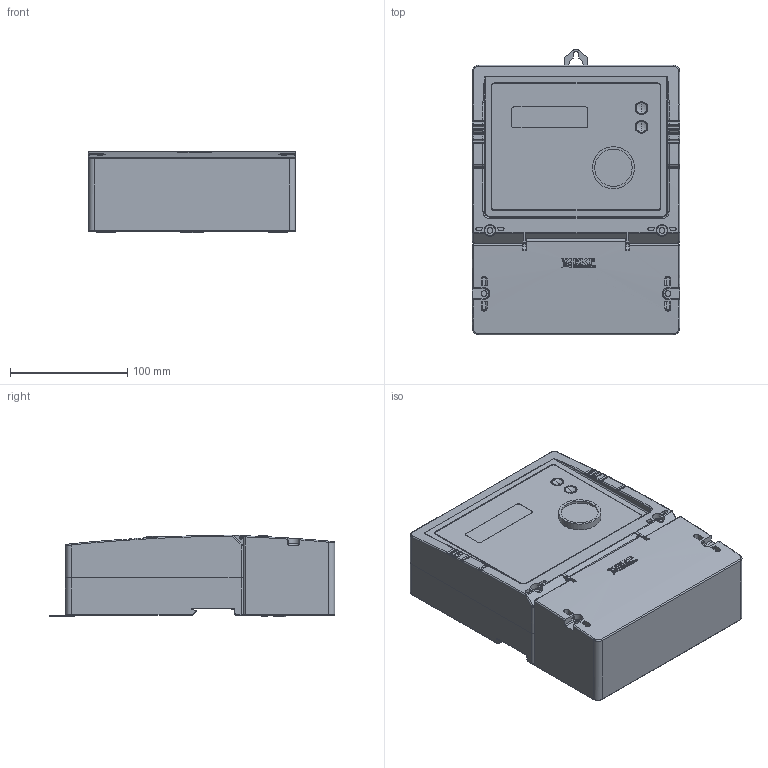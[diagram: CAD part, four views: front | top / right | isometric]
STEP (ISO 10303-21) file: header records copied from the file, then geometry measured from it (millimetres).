
FILE_DESCRIPTION (( 'STEP AP203' ), '1' );
FILE_NAME ('欭殣玁獥306.STEP', '2018-09-04T07:32:56', ( '' ), ( '' ), 'SwSTEP 2.0', 'SolidWorks 2017', '' );
FILE_SCHEMA (( 'CONFIG_CONTROL_DESIGN' ));
Length unit declared in the file: millimetre
Products named in the file (10): Êðûøêà îñíîâíàÿ_306; 扱闀罻_1; 扱闀罻; Êîëîäêà êëåììíàÿ_306; çàùåëêà; Âñòàâêà êðûøêè_306; Êðûøêà íèæíÿÿ_306; 欭殣玁獥306; 瀁鳱殥罻; 闃膼瘔膻嬅306
Assembly tree (9 placements, depth 2):
  欭殣玁獥306
    闃膼瘔膻嬅306
    Êîëîäêà êëåììíàÿ_306
    Êðûøêà îñíîâíàÿ_306
    Êðûøêà íèæíÿÿ_306
    Âñòàâêà êðûøêè_306
    扱闀罻
    扱闀罻_1
    瀁鳱殥罻
    çàùåëêà
Bounding box: 177 x 243.81 x 70.03 mm (x, y, z)
Volume: 541101.2 mm3; surface area: 396180.4 mm2
Topology: 9 solids, 9 shells, 2117 faces, 5650 edges, 3617 vertices
Faces by surface type: plane 1119, cylinder 606, torus 161, bspline 158, cone 56, sphere 17
Entity records: 75766 total; most frequent: CARTESIAN_POINT 22060, ORIENTED_EDGE 11266, DIRECTION 10665, EDGE_CURVE 5633, VERTEX_POINT 3611, AXIS2_PLACEMENT_3D 3583, VECTOR 3499, LINE 3499
